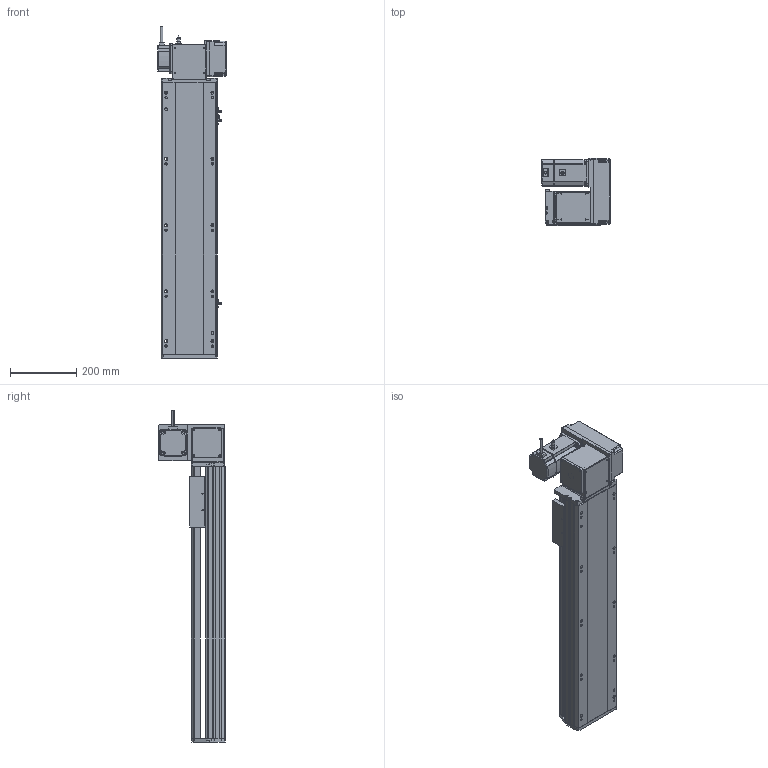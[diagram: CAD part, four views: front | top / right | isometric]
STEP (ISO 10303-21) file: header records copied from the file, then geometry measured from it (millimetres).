
FILE_DESCRIPTION (( 'STEP AP214' ), '1' );
FILE_NAME ('RTB17S-XX-550-RW-M75-C4.STEP', '2025-12-12T02:33:14', ( '' ), ( '' ), 'SwSTEP 2.0', 'SolidWorks 2018', '' );
FILE_SCHEMA (( 'AUTOMOTIVE_DESIGN' ));
Length unit declared in the file: millimetre
Products named in the file (15): RTB17S-L-004-賑釱^RTB17S-賑釱_RTB17S-XX-XX-RW-M75-C4; RTB17-R-011菁釱^RTB17S-XX-XX-RW-M75-C4; RTB22S-GY-008-M75--萇儂啣^RTB17S-RW-々湍釱蚾饜-750W_RTB17S-XX-XX-RW-M75-C4; RMP17S-L-014-T20-P75--々湍釱^RTB17S-RW-々湍釱蚾饜-750W_RTB17S-XX-XX-RW-M75-C4; RTB17S-L-001-耜醱啣^RTB17S-XX-XX-RW-M75-C4; RTB17S-RW-々湍釱蚾饜-750W^RTB17S-XX-XX-RW-M75-C4; RTB22S-GY-005P^RTB17S-RW-々湍釱蚾饜-750W_RTB17S-XX-XX-RW-M75-C4; EE672^RTB17S-XX-XX-RW-M75-C4; 750W萇儂^RTB17S-XX-XX-RW-M75-C4; RTH13-BL-012覜茼え俋离^RTB17S-賑釱_RTB17S-XX-XX-RW-M75-C4; RTB17S-L-007奻裔^RTB17S-XX-XX-RW-M75-C4; RTB22S-GY-017P^RTB17S-RW-々湍釱蚾饜-750W_RTB17S-XX-XX-RW-M75-C4; RTB17S-賑釱^RTB17S-XX-XX-RW-M75-C4; RTB17S-XX-550-RW-M75-C4; RTB22S-GY-018P^RTB17S-RW-々湍釱蚾饜-750W_RTB17S-XX-XX-RW-M75-C4
Assembly tree (17 placements, depth 3):
  RTB17S-XX-550-RW-M75-C4
    RTB17-R-011菁釱^RTB17S-XX-XX-RW-M75-C4
    EE672^RTB17S-XX-XX-RW-M75-C4  x3
    RTB17S-L-001-耜醱啣^RTB17S-XX-XX-RW-M75-C4
    RTB17S-賑釱^RTB17S-XX-XX-RW-M75-C4
      RTB17S-L-004-賑釱^RTB17S-賑釱_RTB17S-XX-XX-RW-M75-C4
      RTH13-BL-012覜茼え俋离^RTB17S-賑釱_RTB17S-XX-XX-RW-M75-C4
    RTB17S-L-007奻裔^RTB17S-XX-XX-RW-M75-C4
    750W萇儂^RTB17S-XX-XX-RW-M75-C4
    RTB17S-RW-々湍釱蚾饜-750W^RTB17S-XX-XX-RW-M75-C4
      RMP17S-L-014-T20-P75--々湍釱^RTB17S-RW-々湍釱蚾饜-750W_RTB17S-XX-XX-RW-M75-C4
      RTB22S-GY-005P^RTB17S-RW-々湍釱蚾饜-750W_RTB17S-XX-XX-RW-M75-C4
      RTB22S-GY-017P^RTB17S-RW-々湍釱蚾饜-750W_RTB17S-XX-XX-RW-M75-C4  x2
      RTB22S-GY-008-M75--萇儂啣^RTB17S-RW-々湍釱蚾饜-750W_RTB17S-XX-XX-RW-M75-C4
      RTB22S-GY-018P^RTB17S-RW-々湍釱蚾饜-750W_RTB17S-XX-XX-RW-M75-C4
Bounding box: 207.4 x 201.5 x 1002.2 mm (x, y, z)
Volume: 9388117.6 mm3; surface area: 1518170.9 mm2
Topology: 17 solids, 17 shells, 2057 faces, 5674 edges, 3662 vertices
Faces by surface type: plane 966, cylinder 675, bspline 294, cone 110, sphere 8, torus 4
Entity records: 56566 total; most frequent: CARTESIAN_POINT 16538, ORIENTED_EDGE 8192, DIRECTION 7682, EDGE_CURVE 4096, AXIS2_PLACEMENT_3D 2682, VERTEX_POINT 2666, VECTOR 2318, LINE 2318
